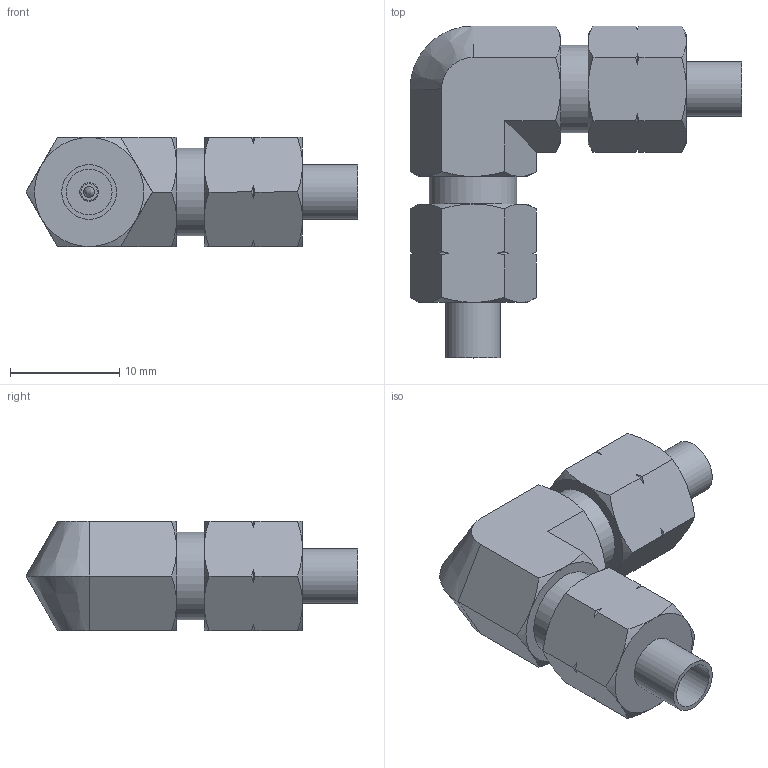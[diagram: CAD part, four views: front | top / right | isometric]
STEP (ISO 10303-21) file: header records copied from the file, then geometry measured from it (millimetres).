
FILE_DESCRIPTION((''),'2;1');
FILE_NAME('D:\INVENTOR\[New Inventor]\CDC Products 3D Ass''y\Two-Touch Fittings\Metric\CUL\CUL4-2.stp','2009-02-25T10:05:45',('Microsoft'),(''),'Autodesk Inventor 2008','Autodesk Inventor 2008','');
FILE_SCHEMA(('AUTOMOTIVE_DESIGN { 1 0 10303 214 1 1 1 1 }'));
Length unit declared in the file: millimetre
Products named in the file (1): CUL4-2
Bounding box: 30.38 x 30.38 x 10 mm (x, y, z)
Volume: 2981.5 mm3; surface area: 2301.8 mm2
Topology: 1 solids, 1 shells, 109 faces, 251 edges, 152 vertices
Faces by surface type: cone 60, plane 34, cylinder 10, bspline 3, torus 2
Full cylindrical faces by diameter (mm): 1 x2, 1.7 x2, 4.2 x2, 5 x2, 8 x2
Entity records: 2982 total; most frequent: CARTESIAN_POINT 881, ORIENTED_EDGE 470, DIRECTION 398, EDGE_CURVE 235, AXIS2_PLACEMENT_3D 178, VERTEX_POINT 150, EDGE_LOOP 133, FACE_OUTER_BOUND 109
